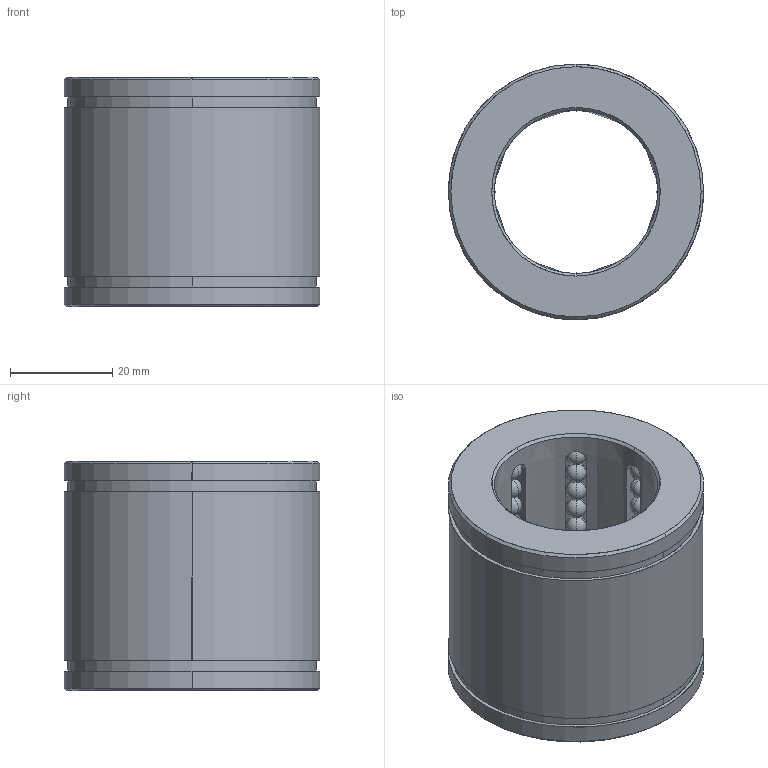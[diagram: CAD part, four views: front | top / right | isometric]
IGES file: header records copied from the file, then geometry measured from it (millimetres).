
Start section: START RECORD GO HERE.
Global section: file name: B8033245.igs; native system: DASSAULT SYSTEMES CATIA V5 R20 - www.3ds.com; preprocessor: CATIA Version 5 Release 20 ; author: Utente; organization: NB04-ASUS; date: 20200419.161432; units: millimetre
Bounding box: 50 x 50 x 45 mm (x, y, z)
Surface area: 20347.3 mm2 (no closed solid volume)
Topology: 0 solids, 0 shells, 362 faces, 1508 edges, 932 vertices
Faces by surface type: revolution 332, plane 30
